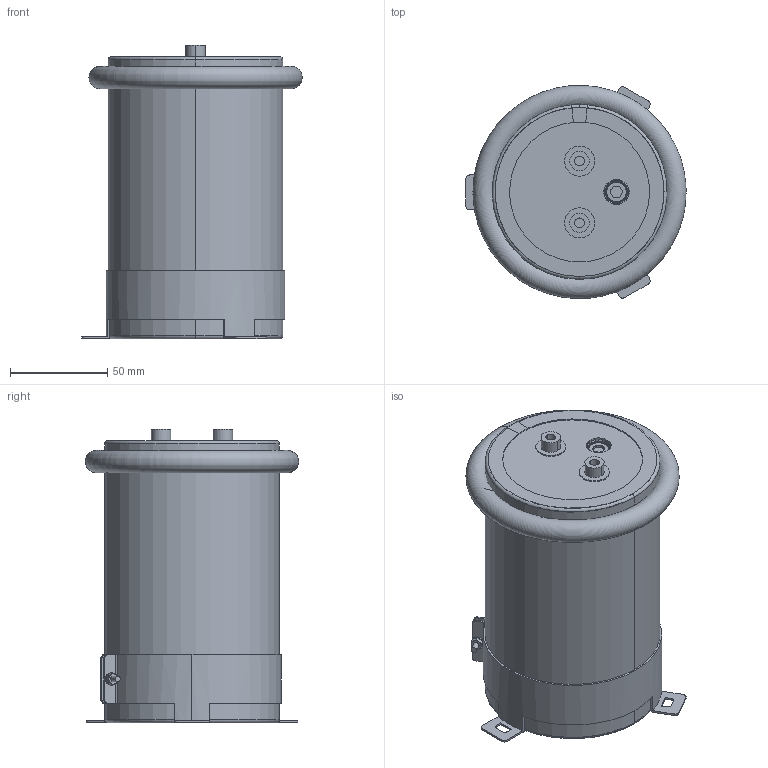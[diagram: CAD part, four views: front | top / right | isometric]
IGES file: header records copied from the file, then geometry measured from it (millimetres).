
Start section: 3D InterOp IGES (v. 2019 1.0.2), Spatial Corp. Copyright (c) 1999-2017.
Global section: file name: 90x145_Screw.igs; native system: Spatial Corp.; preprocessor: 3D InterOp ACIS/IGES; author: Noname; organization: Noname; date: 20220314.175756; units: millimetre
Bounding box: 113.35 x 109.69 x 151 mm (x, y, z)
Volume: 1267137.8 mm3; surface area: 303100.8 mm2
Topology: 9 solids, 9 shells, 352 faces, 953 edges, 591 vertices
Faces by surface type: plane 112, cylinder 110, torus 90, cone 38, sphere 2
